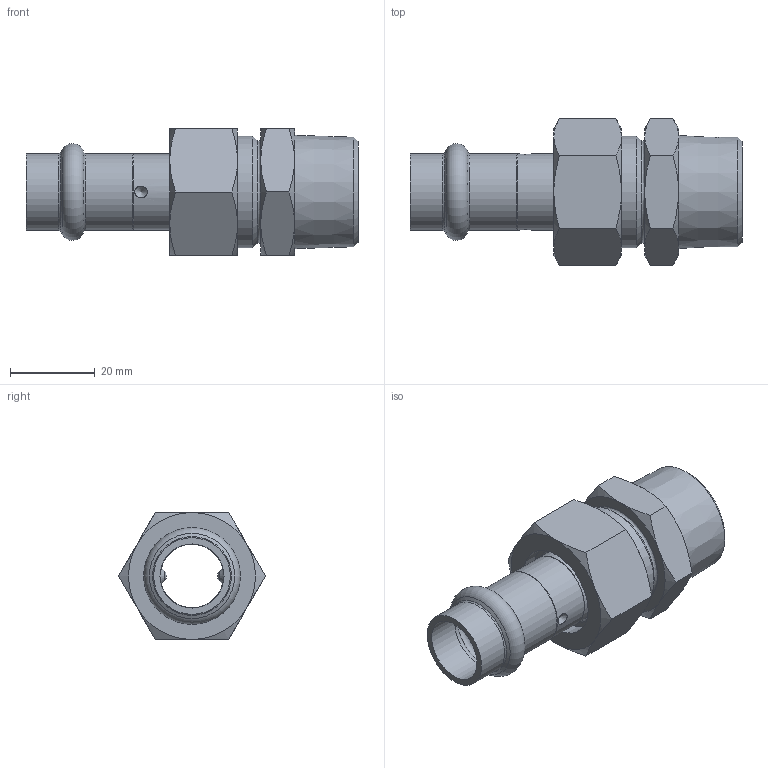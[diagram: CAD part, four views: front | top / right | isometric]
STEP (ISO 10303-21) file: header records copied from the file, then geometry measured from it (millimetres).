
FILE_DESCRIPTION((''),'2;1');
FILE_NAME('G:\Nirosan-Schmiedefeld\Technics\CAD\Bauteile VA\015\69333GMVA1534(4).stp','2011-09-20T11:04:11',('herberg'),(''),'Autodesk Inventor 2009','Autodesk Inventor 2009','');
FILE_SCHEMA(('AUTOMOTIVE_DESIGN { 1 0 10303 214 1 1 1 1 }'));
Length unit declared in the file: millimetre
Products named in the file (7): 69333GMVA1534(4); 69359m1534(3); HM_692431815(0); R1834(0); SM1834(2); FD_2417_EPDM(0); 69376G3434(1)
Assembly tree (6 placements, depth 3):
  69333GMVA1534(4)
    69359m1534(3)
      HM_692431815(0)
      R1834(0)
      SM1834(2)
      FD_2417_EPDM(0)
    69376G3434(1)
Bounding box: 78.5 x 34.64 x 30 mm (x, y, z)
Volume: 20776.6 mm3; surface area: 15685.4 mm2
Topology: 5 solids, 5 shells, 89 faces, 189 edges, 113 vertices
Faces by surface type: cone 38, plane 25, cylinder 12, bspline 10, sphere 2, torus 2
Full cylindrical faces by diameter (mm): 15 x2, 15.15 x2, 17 x1, 18 x2, 18.15 x2, 23 x1, 24 x1, 26.441 x1
Entity records: 2776 total; most frequent: CARTESIAN_POINT 1013, DIRECTION 340, ORIENTED_EDGE 280, AXIS2_PLACEMENT_3D 164, EDGE_CURVE 140, EDGE_LOOP 140, VERTEX_POINT 102, FACE_OUTER_BOUND 89
